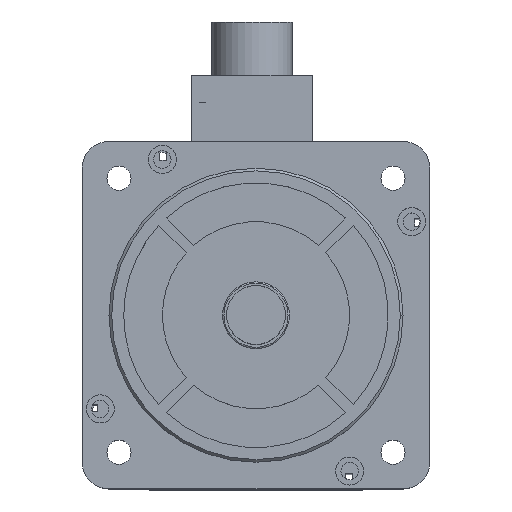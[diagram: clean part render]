
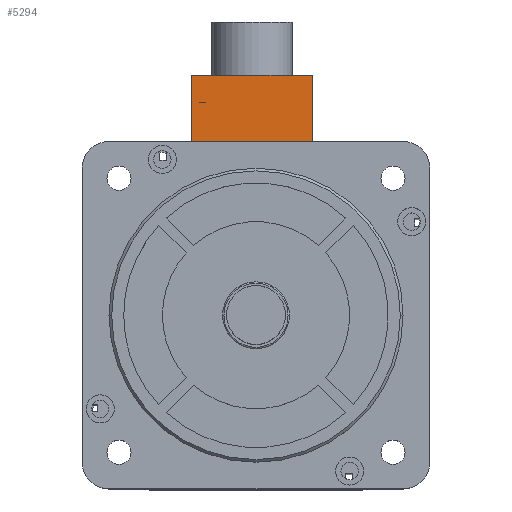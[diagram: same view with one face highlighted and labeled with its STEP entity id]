
A CAD part, top view. The second image highlights one B-rep face of the part: STEP entity #5294.
In plain terms, the highlighted planar face has unit normal (0, 0, 1) as drawn and (0, -1, 0) by its records, which use the part's own axes.
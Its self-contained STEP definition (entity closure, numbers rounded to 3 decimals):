
#731 = CARTESIAN_POINT ( 'NONE',  ( 45., 0., 0. ) ) ;
#743 = DIRECTION ( 'NONE',  ( 0., 0., -1. ) ) ;
#1263 = FACE_OUTER_BOUND ( 'NONE', #10956, .T. ) ;
#1567 = LINE ( 'NONE', #6948, #12015 ) ;
#1846 = CARTESIAN_POINT ( 'NONE',  ( 45., 0., -25. ) ) ;
#3138 = CARTESIAN_POINT ( 'NONE',  ( 0., 0., -25. ) ) ;
#3348 = VERTEX_POINT ( 'NONE', #8187 ) ;
#3505 = CARTESIAN_POINT ( 'NONE',  ( 0., 0., 0. ) ) ;
#3946 = CARTESIAN_POINT ( 'NONE',  ( 0., 0., 0. ) ) ;
#3967 = DIRECTION ( 'NONE',  ( 0., -1., 0. ) ) ;
#5294 = ADVANCED_FACE ( 'NONE', ( #1263 ), #15664, .T. ) ;
#5861 = DIRECTION ( 'NONE',  ( 1., 0., 0. ) ) ;
#6534 = VECTOR ( 'NONE', #6926, 1000. ) ;
#6926 = DIRECTION ( 'NONE',  ( 0., 0., 1. ) ) ;
#6948 = CARTESIAN_POINT ( 'NONE',  ( 0., 0., -25. ) ) ;
#7520 = VECTOR ( 'NONE', #9943, 1000. ) ;
#8187 = CARTESIAN_POINT ( 'NONE',  ( 45., 0., -25. ) ) ;
#8481 = ORIENTED_EDGE ( 'NONE', *, *, #12193, .T. ) ;
#9122 = ORIENTED_EDGE ( 'NONE', *, *, #13976, .F. ) ;
#9222 = VERTEX_POINT ( 'NONE', #3505 ) ;
#9560 = AXIS2_PLACEMENT_3D ( 'NONE', #16727, #3967, #743 ) ;
#9710 = DIRECTION ( 'NONE',  ( 0., 0., 1. ) ) ;
#9943 = DIRECTION ( 'NONE',  ( 1., 0., 0. ) ) ;
#10420 = CARTESIAN_POINT ( 'NONE',  ( 0., 0., -25. ) ) ;
#10882 = ORIENTED_EDGE ( 'NONE', *, *, #13820, .T. ) ;
#10956 = EDGE_LOOP ( 'NONE', ( #9122, #13752, #8481, #10882 ) ) ;
#11874 = VECTOR ( 'NONE', #9710, 1000. ) ;
#12015 = VECTOR ( 'NONE', #5861, 1000. ) ;
#12193 = EDGE_CURVE ( 'NONE', #12460, #3348, #1567, .T. ) ;
#12460 = VERTEX_POINT ( 'NONE', #10420 ) ;
#12637 = LINE ( 'NONE', #3946, #7520 ) ;
#13266 = VERTEX_POINT ( 'NONE', #731 ) ;
#13752 = ORIENTED_EDGE ( 'NONE', *, *, #15229, .F. ) ;
#13820 = EDGE_CURVE ( 'NONE', #3348, #13266, #16745, .T. ) ;
#13976 = EDGE_CURVE ( 'NONE', #9222, #13266, #12637, .T. ) ;
#14565 = LINE ( 'NONE', #3138, #6534 ) ;
#15229 = EDGE_CURVE ( 'NONE', #12460, #9222, #14565, .T. ) ;
#15664 = PLANE ( 'NONE',  #9560 ) ;
#16727 = CARTESIAN_POINT ( 'NONE',  ( 0., 0., -25. ) ) ;
#16745 = LINE ( 'NONE', #1846, #11874 ) ;
